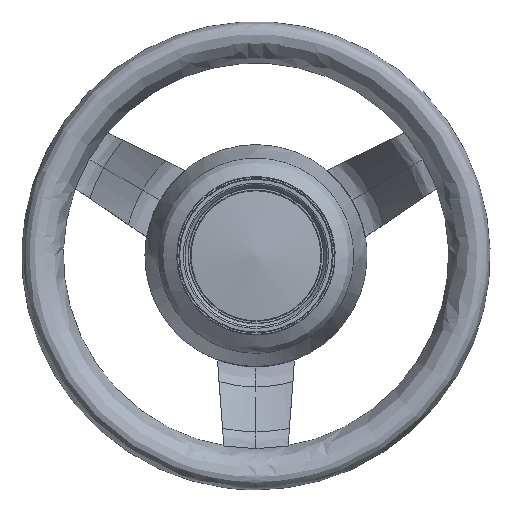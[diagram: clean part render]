
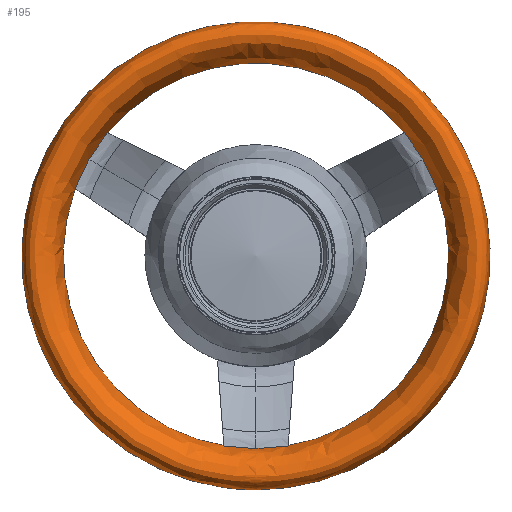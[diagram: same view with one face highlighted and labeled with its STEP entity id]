
A CAD part, front view. The second image highlights one B-rep face of the part: STEP entity #195.
In plain terms, the highlighted free-form (B-spline) face has degree [2, 2] with [9, 5] control points.
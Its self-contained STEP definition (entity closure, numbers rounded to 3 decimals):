
#195=ADVANCED_FACE('',(#271),#1304,.T.);
#271=FACE_OUTER_BOUND('',#348,.T.);
#348=EDGE_LOOP('',(#690,#691,#692,#693));
#690=ORIENTED_EDGE('',*,*,#901,.T.);
#691=ORIENTED_EDGE('',*,*,#902,.T.);
#692=ORIENTED_EDGE('',*,*,#903,.T.);
#693=ORIENTED_EDGE('',*,*,#902,.F.);
#901=EDGE_CURVE('',#1243,#1243,#1108,.T.);
#902=EDGE_CURVE('',#1243,#1244,#1109,.T.);
#903=EDGE_CURVE('',#1244,#1244,#1110,.T.);
#1108=(
BOUNDED_CURVE()
B_SPLINE_CURVE(2,(#4796,#4797,#4798,#4799,#4800,#4801,#4802,#4803,#4804),
 .UNSPECIFIED.,.T.,.F.)
B_SPLINE_CURVE_WITH_KNOTS((3,2,2,2,3),(0.,1.571,3.142,
4.712,6.283),.UNSPECIFIED.)
CURVE()
GEOMETRIC_REPRESENTATION_ITEM()
RATIONAL_B_SPLINE_CURVE((1.,0.707,1.,0.707,1.,0.707,
1.,0.707,1.))
REPRESENTATION_ITEM('')
);
#1109=(
BOUNDED_CURVE()
B_SPLINE_CURVE(2,(#4805,#4806,#4807,#4808,#4809),.UNSPECIFIED.,.F.,.F.)
B_SPLINE_CURVE_WITH_KNOTS((3,2,3),(43.982,65.973,87.965),
 .UNSPECIFIED.)
CURVE()
GEOMETRIC_REPRESENTATION_ITEM()
RATIONAL_B_SPLINE_CURVE((1.,0.6,1.,0.8,1.))
REPRESENTATION_ITEM('')
);
#1110=(
BOUNDED_CURVE()
B_SPLINE_CURVE(2,(#4810,#4811,#4812,#4813,#4814,#4815,#4816,#4817,#4818),
 .UNSPECIFIED.,.T.,.F.)
B_SPLINE_CURVE_WITH_KNOTS((3,2,2,2,3),(-6.283,-4.712,
-3.142,-1.571,0.),.UNSPECIFIED.)
CURVE()
GEOMETRIC_REPRESENTATION_ITEM()
RATIONAL_B_SPLINE_CURVE((1.,0.707,1.,0.707,1.,0.707,
1.,0.707,1.))
REPRESENTATION_ITEM('')
);
#1243=VERTEX_POINT('',#4794);
#1244=VERTEX_POINT('',#4795);
#1304=(
BOUNDED_SURFACE()
B_SPLINE_SURFACE(2,2,((#4704,#4705,#4706,#4707,#4708),(#4709,#4710,#4711,
#4712,#4713),(#4714,#4715,#4716,#4717,#4718),(#4719,#4720,#4721,#4722,#4723),
(#4724,#4725,#4726,#4727,#4728),(#4729,#4730,#4731,#4732,#4733),(#4734,
#4735,#4736,#4737,#4738),(#4739,#4740,#4741,#4742,#4743),(#4744,#4745,#4746,
#4747,#4748)),.UNSPECIFIED.,.T.,.F.,.F.)
B_SPLINE_SURFACE_WITH_KNOTS((3,2,2,2,3),(3,2,3),(0.,1.571,3.142,
4.712,6.283),(43.982,65.973,87.965),
 .UNSPECIFIED.)
GEOMETRIC_REPRESENTATION_ITEM()
RATIONAL_B_SPLINE_SURFACE(((1.,0.6,1.,0.8,1.),(0.707,0.424,
0.707,0.566,0.707),(1.,0.6,1.,0.8,1.),
(0.707,0.424,0.707,0.566,
0.707),(1.,0.6,1.,0.8,1.),(0.707,0.424,
0.707,0.566,0.707),(1.,0.6,1.,0.8,1.),
(0.707,0.424,0.707,0.566,
0.707),(1.,0.6,1.,0.8,1.)))
REPRESENTATION_ITEM('')
SURFACE()
);
#4704=CARTESIAN_POINT('',(0.,-68.5,-144.));
#4705=CARTESIAN_POINT('',(0.,-95.5,-144.));
#4706=CARTESIAN_POINT('',(0.,-95.5,-165.));
#4707=CARTESIAN_POINT('',(0.,-95.5,-175.));
#4708=CARTESIAN_POINT('',(0.,-80.,-175.));
#4709=CARTESIAN_POINT('',(-144.,-68.5,-144.));
#4710=CARTESIAN_POINT('',(-144.,-95.5,-144.));
#4711=CARTESIAN_POINT('',(-165.,-95.5,-165.));
#4712=CARTESIAN_POINT('',(-175.,-95.5,-175.));
#4713=CARTESIAN_POINT('',(-175.,-80.,-175.));
#4714=CARTESIAN_POINT('',(-144.,-68.5,0.));
#4715=CARTESIAN_POINT('',(-144.,-95.5,0.));
#4716=CARTESIAN_POINT('',(-165.,-95.5,0.));
#4717=CARTESIAN_POINT('',(-175.,-95.5,0.));
#4718=CARTESIAN_POINT('',(-175.,-80.,0.));
#4719=CARTESIAN_POINT('',(-144.,-68.5,144.));
#4720=CARTESIAN_POINT('',(-144.,-95.5,144.));
#4721=CARTESIAN_POINT('',(-165.,-95.5,165.));
#4722=CARTESIAN_POINT('',(-175.,-95.5,175.));
#4723=CARTESIAN_POINT('',(-175.,-80.,175.));
#4724=CARTESIAN_POINT('',(0.,-68.5,144.));
#4725=CARTESIAN_POINT('',(0.,-95.5,144.));
#4726=CARTESIAN_POINT('',(0.,-95.5,165.));
#4727=CARTESIAN_POINT('',(0.,-95.5,175.));
#4728=CARTESIAN_POINT('',(0.,-80.,175.));
#4729=CARTESIAN_POINT('',(144.,-68.5,144.));
#4730=CARTESIAN_POINT('',(144.,-95.5,144.));
#4731=CARTESIAN_POINT('',(165.,-95.5,165.));
#4732=CARTESIAN_POINT('',(175.,-95.5,175.));
#4733=CARTESIAN_POINT('',(175.,-80.,175.));
#4734=CARTESIAN_POINT('',(144.,-68.5,0.));
#4735=CARTESIAN_POINT('',(144.,-95.5,0.));
#4736=CARTESIAN_POINT('',(165.,-95.5,0.));
#4737=CARTESIAN_POINT('',(175.,-95.5,0.));
#4738=CARTESIAN_POINT('',(175.,-80.,0.));
#4739=CARTESIAN_POINT('',(144.,-68.5,-144.));
#4740=CARTESIAN_POINT('',(144.,-95.5,-144.));
#4741=CARTESIAN_POINT('',(165.,-95.5,-165.));
#4742=CARTESIAN_POINT('',(175.,-95.5,-175.));
#4743=CARTESIAN_POINT('',(175.,-80.,-175.));
#4744=CARTESIAN_POINT('',(0.,-68.5,-144.));
#4745=CARTESIAN_POINT('',(0.,-95.5,-144.));
#4746=CARTESIAN_POINT('',(0.,-95.5,-165.));
#4747=CARTESIAN_POINT('',(0.,-95.5,-175.));
#4748=CARTESIAN_POINT('',(0.,-80.,-175.));
#4794=CARTESIAN_POINT('',(0.,-68.5,-144.));
#4795=CARTESIAN_POINT('',(0.,-80.,-175.));
#4796=CARTESIAN_POINT('',(0.,-68.5,-144.));
#4797=CARTESIAN_POINT('',(-144.,-68.5,-144.));
#4798=CARTESIAN_POINT('',(-144.,-68.5,0.));
#4799=CARTESIAN_POINT('',(-144.,-68.5,144.));
#4800=CARTESIAN_POINT('',(0.,-68.5,144.));
#4801=CARTESIAN_POINT('',(144.,-68.5,144.));
#4802=CARTESIAN_POINT('',(144.,-68.5,0.));
#4803=CARTESIAN_POINT('',(144.,-68.5,-144.));
#4804=CARTESIAN_POINT('',(0.,-68.5,-144.));
#4805=CARTESIAN_POINT('',(0.,-68.5,-144.));
#4806=CARTESIAN_POINT('',(0.,-95.5,-144.));
#4807=CARTESIAN_POINT('',(0.,-95.5,-165.));
#4808=CARTESIAN_POINT('',(0.,-95.5,-175.));
#4809=CARTESIAN_POINT('',(0.,-80.,-175.));
#4810=CARTESIAN_POINT('',(0.,-80.,-175.));
#4811=CARTESIAN_POINT('',(175.,-80.,-175.));
#4812=CARTESIAN_POINT('',(175.,-80.,0.));
#4813=CARTESIAN_POINT('',(175.,-80.,175.));
#4814=CARTESIAN_POINT('',(0.,-80.,175.));
#4815=CARTESIAN_POINT('',(-175.,-80.,175.));
#4816=CARTESIAN_POINT('',(-175.,-80.,0.));
#4817=CARTESIAN_POINT('',(-175.,-80.,-175.));
#4818=CARTESIAN_POINT('',(0.,-80.,-175.));
